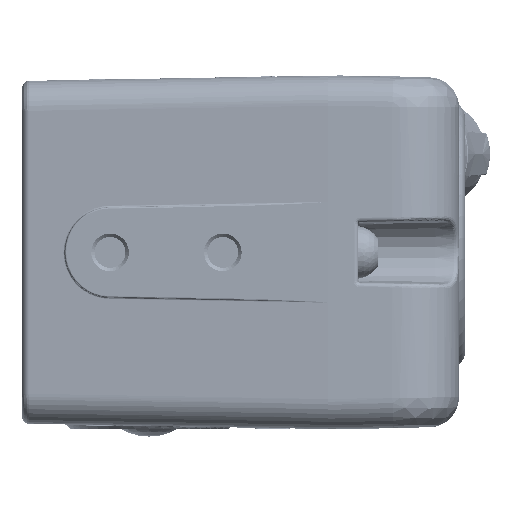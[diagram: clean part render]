
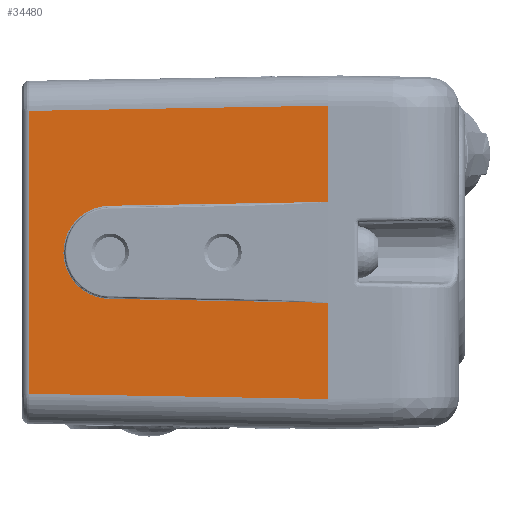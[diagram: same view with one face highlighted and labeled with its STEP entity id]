
A CAD part, left-side view. The second image highlights one B-rep face of the part: STEP entity #34480.
In plain terms, the highlighted planar face has unit normal (-1, 0.018, 0).
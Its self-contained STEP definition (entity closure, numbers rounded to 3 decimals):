
#5591=ELLIPSE('',#154675,3.1,3.1);
#9758=PLANE('',#154676);
#16688=LINE('',#286355,#25630);
#16689=LINE('',#286366,#25631);
#16690=LINE('',#286368,#25632);
#16691=LINE('',#286370,#25633);
#16692=LINE('',#286372,#25634);
#16693=LINE('',#286374,#25635);
#16694=LINE('',#286384,#25636);
#25630=VECTOR('',#186574,1.);
#25631=VECTOR('',#186575,1.);
#25632=VECTOR('',#186576,1.);
#25633=VECTOR('',#186577,1.);
#25634=VECTOR('',#186578,1.);
#25635=VECTOR('',#186579,1.);
#25636=VECTOR('',#186580,1.);
#34480=ADVANCED_FACE('',(#45932),#9758,.T.);
#45932=FACE_OUTER_BOUND('',#55523,.T.);
#55523=EDGE_LOOP('',(#91623,#91624,#91625,#91626,#91627,#91628,#91629,#91630,
#91631,#91632));
#91623=ORIENTED_EDGE('',*,*,#128852,.T.);
#91624=ORIENTED_EDGE('',*,*,#128853,.T.);
#91625=ORIENTED_EDGE('',*,*,#128854,.F.);
#91626=ORIENTED_EDGE('',*,*,#128855,.T.);
#91627=ORIENTED_EDGE('',*,*,#128856,.T.);
#91628=ORIENTED_EDGE('',*,*,#128857,.T.);
#91629=ORIENTED_EDGE('',*,*,#128858,.F.);
#91630=ORIENTED_EDGE('',*,*,#128859,.T.);
#91631=ORIENTED_EDGE('',*,*,#128860,.T.);
#91632=ORIENTED_EDGE('',*,*,#128861,.T.);
#109764=VERTEX_POINT('',#286356);
#109765=VERTEX_POINT('',#286357);
#109766=VERTEX_POINT('',#286365);
#109767=VERTEX_POINT('',#286367);
#109768=VERTEX_POINT('',#286369);
#109769=VERTEX_POINT('',#286371);
#109770=VERTEX_POINT('',#286373);
#109771=VERTEX_POINT('',#286375);
#109772=VERTEX_POINT('',#286383);
#109773=VERTEX_POINT('',#286385);
#128852=EDGE_CURVE('',#109764,#109765,#16688,.T.);
#128853=EDGE_CURVE('',#109765,#109766,#138845,.T.);
#128854=EDGE_CURVE('',#109767,#109766,#16689,.T.);
#128855=EDGE_CURVE('',#109767,#109768,#16690,.T.);
#128856=EDGE_CURVE('',#109768,#109769,#16691,.T.);
#128857=EDGE_CURVE('',#109769,#109770,#16692,.T.);
#128858=EDGE_CURVE('',#109771,#109770,#16693,.T.);
#128859=EDGE_CURVE('',#109771,#109772,#138846,.T.);
#128860=EDGE_CURVE('',#109772,#109773,#16694,.T.);
#128861=EDGE_CURVE('',#109773,#109764,#5591,.T.);
#138845=B_SPLINE_CURVE_WITH_KNOTS('',3,(#286358,#286359,#286360,#286361,
#286362,#286363,#286364),.UNSPECIFIED.,.F.,.F.,(4,3,4),(0.,0.82,
1.),.UNSPECIFIED.);
#138846=B_SPLINE_CURVE_WITH_KNOTS('',3,(#286376,#286377,#286378,#286379,
#286380,#286381,#286382),.UNSPECIFIED.,.F.,.F.,(4,3,4),(0.,0.18,
1.),.UNSPECIFIED.);
#154675=AXIS2_PLACEMENT_3D('',#286386,#186581,#186582);
#154676=AXIS2_PLACEMENT_3D('',#286387,#186583,#186584);
#186574=DIRECTION('',(-0.017,-1.,0.017));
#186575=DIRECTION('',(0.,0.,-1.));
#186576=DIRECTION('',(0.017,1.,-0.017));
#186577=DIRECTION('',(0.,0.,-1.));
#186578=DIRECTION('',(-0.017,-1.,-0.017));
#186579=DIRECTION('',(0.,0.,-1.));
#186580=DIRECTION('',(0.017,1.,0.017));
#186581=DIRECTION('',(1.,-0.017,0.));
#186582=DIRECTION('',(-0.017,-1.,0.));
#186583=DIRECTION('',(-1.,0.017,0.));
#186584=DIRECTION('',(0.017,1.,0.));
#286355=CARTESIAN_POINT('',(-22.7,-5.148,3.354));
#286356=CARTESIAN_POINT('',(-22.446,9.402,3.1));
#286357=CARTESIAN_POINT('',(-22.7,-5.149,3.354));
#286358=CARTESIAN_POINT('',(-22.7,-5.149,3.354));
#286359=CARTESIAN_POINT('',(-22.7,-5.149,3.354));
#286360=CARTESIAN_POINT('',(-22.7,-5.15,3.355));
#286361=CARTESIAN_POINT('',(-22.7,-5.15,3.356));
#286362=CARTESIAN_POINT('',(-22.7,-5.15,3.356));
#286363=CARTESIAN_POINT('',(-22.7,-5.15,3.356));
#286364=CARTESIAN_POINT('',(-22.7,-5.15,3.356));
#286365=CARTESIAN_POINT('',(-22.7,-5.15,3.356));
#286366=CARTESIAN_POINT('',(-22.7,-5.15,11.75));
#286367=CARTESIAN_POINT('',(-22.7,-5.15,9.75));
#286368=CARTESIAN_POINT('',(-22.701,-5.185,9.751));
#286369=CARTESIAN_POINT('',(-22.353,14.709,9.404));
#286370=CARTESIAN_POINT('',(-22.353,14.709,-11.395));
#286371=CARTESIAN_POINT('',(-22.353,14.709,-9.404));
#286372=CARTESIAN_POINT('',(-22.693,-4.775,-9.744));
#286373=CARTESIAN_POINT('',(-22.7,-5.15,-9.75));
#286374=CARTESIAN_POINT('',(-22.7,-5.15,11.75));
#286375=CARTESIAN_POINT('',(-22.7,-5.15,-3.356));
#286376=CARTESIAN_POINT('',(-22.7,-5.15,-3.356));
#286377=CARTESIAN_POINT('',(-22.7,-5.15,-3.356));
#286378=CARTESIAN_POINT('',(-22.7,-5.15,-3.356));
#286379=CARTESIAN_POINT('',(-22.7,-5.15,-3.356));
#286380=CARTESIAN_POINT('',(-22.7,-5.15,-3.355));
#286381=CARTESIAN_POINT('',(-22.7,-5.149,-3.354));
#286382=CARTESIAN_POINT('',(-22.7,-5.149,-3.354));
#286383=CARTESIAN_POINT('',(-22.7,-5.149,-3.354));
#286384=CARTESIAN_POINT('',(-22.446,9.404,-3.099));
#286385=CARTESIAN_POINT('',(-22.446,9.402,-3.1));
#286386=CARTESIAN_POINT('',(-22.447,9.348,0.));
#286387=CARTESIAN_POINT('',(-22.7,-5.15,11.75));
